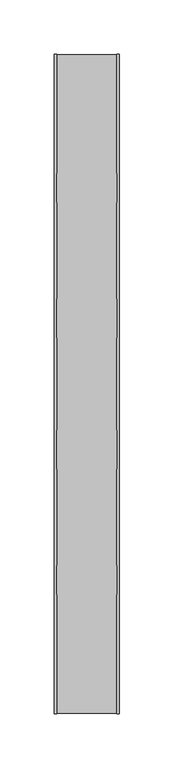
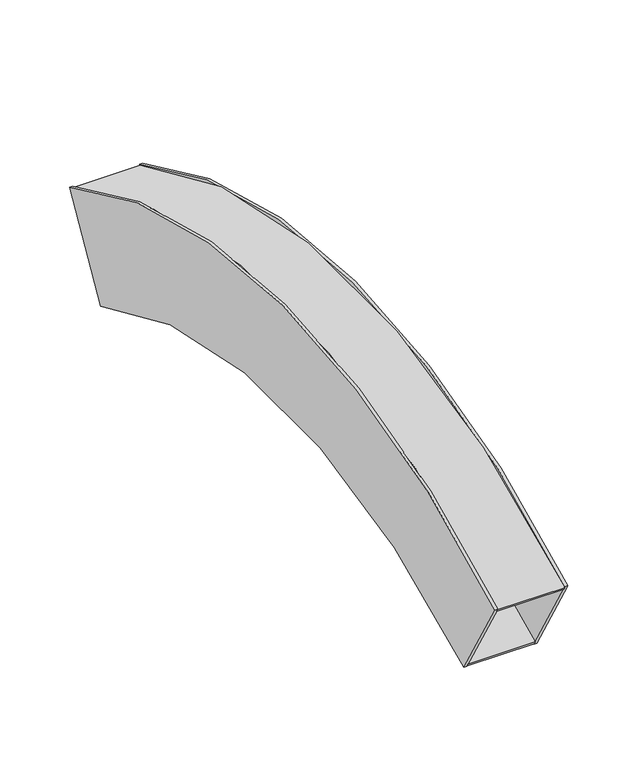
"""IFC4 building model written with IfcOpenShell, lengths in millimetres: light fixture geometry, Lighting-Recessed-Lumenwerx-Curvia_2_XYZ-OUTC : CURV2PPAT-D-HLO-SW-80-350-35-OUTC."""

from ifc_helpers import new_model, si_unit, point, frame, frame_2d, origin, place, context, project, spatial, polyline, circle_curve, trimmed, segment, composite_curve, outline, extrude, source, transform, mapped, element, save
from ifc_brep_helpers import plane_surface, cylinder_surface, advanced_brep


def light_fixture_3501954e(model_context):
    return source(origin(), model_context, "Body", "SolidModel", [
        extrude(outline(composite_curve([segment(trimmed(circle_curve(frame_2d((735.5879398, -609.6)), 521.57376), [point((996.3748198, -157.9038739))], [point((474.8010598, -157.9038739))], True, "CARTESIAN"), True, "CONTINUOUS"), segment(polyline([(474.8010598, -157.9038739), (473.5310598, -155.7041694)]), True, "CONTINUOUS"), segment(trimmed(circle_curve(frame_2d((735.5879398, -609.6)), 524.11376), [point((473.5310598, -155.7041694))], [point((997.6448198, -155.7041694))], False, "CARTESIAN"), True, "CONTINUOUS"), segment(polyline([(997.6448198, -155.7041694), (996.3748198, -157.9038739)]), True, "CONTINUOUS")], self_intersect=False)), frame((-27.77998, 0.0, 0.0), z_axis=(1.0, 0.0, 0.0), x_axis=(0.0, 1.0, 0.0)), (0.0, 0.0, 1.0), 55.55996),
        extrude(outline(composite_curve([segment(trimmed(circle_curve(frame_2d((735.5879398, -609.6)), 606.18624), [point((1038.6810598, -84.6273167))], [point((432.4948198, -84.6273167))], True, "CARTESIAN"), True, "CONTINUOUS"), segment(polyline([(432.4948198, -84.6273167), (431.2248198, -82.4276122)]), True, "CONTINUOUS"), segment(trimmed(circle_curve(frame_2d((735.5879398, -609.6)), 608.72624), [point((431.2248198, -82.4276122))], [point((1039.9510598, -82.4276122))], False, "CARTESIAN"), True, "CONTINUOUS"), segment(polyline([(1039.9510598, -82.4276122), (1038.6810598, -84.6273167)]), True, "CONTINUOUS")], self_intersect=False)), frame((-27.77998, 0.0, 0.0), z_axis=(1.0, 0.0, 0.0), x_axis=(0.0, 1.0, 0.0)), (0.0, 0.0, 1.0), 55.55996),
        extrude(outline(composite_curve([segment(trimmed(circle_curve(frame_2d((735.5879398, -609.6)), 520.7), [point((995.9379398, -158.6605722))], [point((475.2379398, -158.6605722))], True, "CARTESIAN"), True, "CONTINUOUS"), segment(polyline([(475.2379398, -158.6605722), (430.7879398, -81.6709139)]), True, "CONTINUOUS"), segment(trimmed(circle_curve(frame_2d((735.5879398, -609.6)), 609.6), [point((430.7879398, -81.6709139))], [point((1040.3879398, -81.6709139))], False, "CARTESIAN"), True, "CONTINUOUS"), segment(polyline([(1040.3879398, -81.6709139), (995.9379398, -158.6605722)]), True, "CONTINUOUS")], self_intersect=False)), frame((27.77998, 0.0, 0.0), z_axis=(1.0, 0.0, 0.0), x_axis=(0.0, 1.0, 0.0)), (0.0, 0.0, 1.0), 2.38252),
        extrude(outline(composite_curve([segment(trimmed(circle_curve(frame_2d((735.5879398, -609.6)), 520.7), [point((995.9379398, -158.6605722))], [point((475.2379398, -158.6605722))], True, "CARTESIAN"), True, "CONTINUOUS"), segment(polyline([(475.2379398, -158.6605722), (430.7879398, -81.6709139)]), True, "CONTINUOUS"), segment(trimmed(circle_curve(frame_2d((735.5879398, -609.6)), 609.6), [point((430.7879398, -81.6709139))], [point((1040.3879398, -81.6709139))], False, "CARTESIAN"), True, "CONTINUOUS"), segment(polyline([(1040.3879398, -81.6709139), (995.9379398, -158.6605722)]), True, "CONTINUOUS")], self_intersect=False)), frame((-30.1625, 0.0, 0.0), z_axis=(1.0, 0.0, 0.0), x_axis=(0.0, 1.0, 0.0)), (0.0, 0.0, 1.0), 2.38252),
        advanced_brep(
        [(0.0, 729.2379398, -85.48624), (0.0, 741.9379398, -85.48624), (0.0, 741.9379398, -88.9), (0.0, 729.2379398, -88.9), (0.0, 735.5879398, -85.48624), (0.0, 735.5879398, -88.9)],
        [
            (0, 1, circle_curve(frame((0.0, 735.5879398, -85.48624), z_axis=(0.0, 0.0, -1.0), x_axis=(0.0, 1.0, 0.0)), 6.35)),
            (1, 2),
            (2, 3, circle_curve(frame((0.0, 735.5879398, -88.9), z_axis=(0.0, 0.0, 1.0), x_axis=(0.0, 1.0, 0.0)), 6.35)),
            (3, 0),
            (1, 0, circle_curve(frame((0.0, 735.5879398, -85.48624), z_axis=(0.0, 0.0, -1.0), x_axis=(0.0, 1.0, 0.0)), 6.35)),
            (3, 2, circle_curve(frame((0.0, 735.5879398, -88.9), z_axis=(0.0, 0.0, 1.0), x_axis=(0.0, 1.0, 0.0)), 6.35)),
            (4, 1),
            (0, 4),
            (2, 5),
            (5, 3),
        ],
        [
            cylinder_surface(frame((0.0, 735.5879398, 31.234815), z_axis=(0.0, 0.0, 1.0), x_axis=(0.0, 1.0, 0.0)), 6.35),
            plane_surface(frame((0.0, 735.5879398, -85.48624), z_axis=(0.0, 0.0, 1.0), x_axis=(0.0, 1.0, 0.0))),
            plane_surface(frame((0.0, 735.5879398, -88.9), z_axis=(0.0, 0.0, -1.0), x_axis=(0.0, 1.0, 0.0))),
        ],
        [
            (0, [[1, 2, 3, 4]]),
            (0, [[5, -4, 6, -2]]),
            (1, [[7, -1, 8]]),
            (1, [[-8, -5, -7]]),
            (2, [[-3, 9, 10]]),
            (2, [[-6, -10, -9]]),
        ],
    ),
    ])


if __name__ == "__main__":
    model = new_model("IFC4")
    model_context = context("Model", 3, world=origin())
    ifc_project = project(units=[si_unit("LENGTHUNIT", "METRE", prefix="MILLI")], contexts=[model_context])
    site = spatial("IfcSite", under=ifc_project)
    building = spatial("IfcBuilding", under=site)
    placement = place(None, origin())
    light_fixture_shape = light_fixture_3501954e(model_context)
    element("IfcLightFixture", 1, ObjectType="Lighting-Recessed-Lumenwerx-Curvia_2_XYZ-OUTC : CURV2PPAT-D-HLO-SW-80-350-35-OUTC", at=placement, inside=building, context=model_context, shape_type="MappedRepresentation", body=[
        mapped(light_fixture_shape, transform((0.0, 0.0, 0.0), x_axis=(1.0, 0.0, 0.0), y_axis=(0.0, 1.0, 0.0), z_axis=(0.0, 0.0, 1.0))),
    ])
    save(model, "model.ifc")
